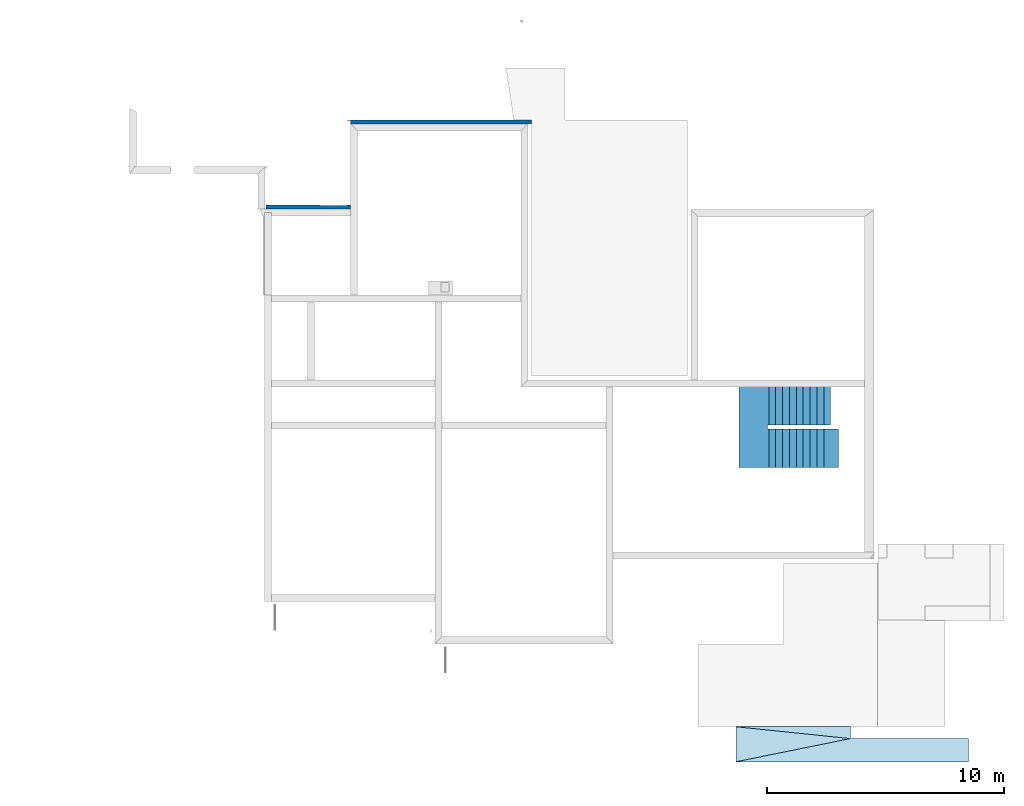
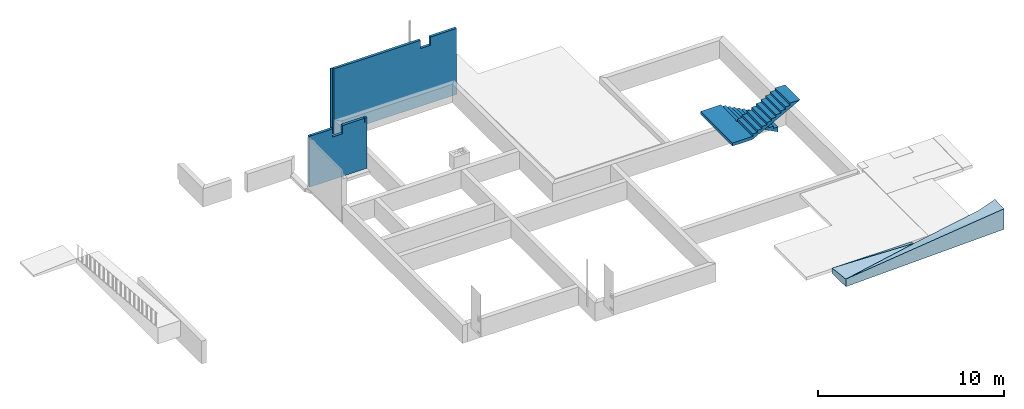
# One storey, part 5 of 5: 2 walls, 1 slab, 1 stair, 1 element without a shape of its own.
"""IFC2X3 building model written with IfcOpenShell, lengths in metres."""

from ifc_helpers import new_model, entity, si_unit, converted_unit, derived_unit, direction, frame, origin, place, context, subcontext, project, spatial, face_set, faceted_brep, surface_model, material, type_object, element, aggregate, save


model = new_model("IFC2X3")

# Units and contexts
model_context = context("Model", 3, precision=1e-05, world=origin(), true_north=direction((6.123031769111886e-17, 1.0)))
body_context = subcontext(model_context, "Body", "Model", "MODEL_VIEW")
ifc_project = project(units=[si_unit("LENGTHUNIT", "METRE"), si_unit("AREAUNIT", "SQUARE_METRE"), si_unit("VOLUMEUNIT", "CUBIC_METRE"), converted_unit("PLANEANGLEUNIT", "DEGREE", entity("IfcRatioMeasure", 0.017453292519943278), si_unit("PLANEANGLEUNIT", "RADIAN"), dimensions=[0, 0, 0, 0, 0, 0, 0]), si_unit("MASSUNIT", "GRAM", prefix="KILO"), derived_unit("MASSDENSITYUNIT", [(si_unit("MASSUNIT", "GRAM", prefix="KILO"), 1), (si_unit("LENGTHUNIT", "METRE"), -3)]), derived_unit("MOMENTOFINERTIAUNIT", [(si_unit("LENGTHUNIT", "METRE"), 4)]), si_unit("TIMEUNIT", "SECOND"), si_unit("FREQUENCYUNIT", "HERTZ"), si_unit("THERMODYNAMICTEMPERATUREUNIT", "DEGREE_CELSIUS"), derived_unit("THERMALTRANSMITTANCEUNIT", [(si_unit("MASSUNIT", "GRAM", prefix="KILO"), 1), (si_unit("THERMODYNAMICTEMPERATUREUNIT", "KELVIN"), -1), (si_unit("TIMEUNIT", "SECOND"), -3)]), derived_unit("THERMALCONDUCTANCEUNIT", [(si_unit("MASSUNIT", "GRAM", prefix="KILO"), 1), (si_unit("LENGTHUNIT", "METRE"), 1), (si_unit("THERMODYNAMICTEMPERATUREUNIT", "KELVIN"), -1), (si_unit("TIMEUNIT", "SECOND"), -3)]), derived_unit("VOLUMETRICFLOWRATEUNIT", [(si_unit("LENGTHUNIT", "METRE"), 3), (si_unit("TIMEUNIT", "SECOND"), -1)]), derived_unit("MASSFLOWRATEUNIT", [(si_unit("MASSUNIT", "GRAM", prefix="KILO"), 1), (si_unit("TIMEUNIT", "SECOND"), -1)]), derived_unit("ROTATIONALFREQUENCYUNIT", [(si_unit("TIMEUNIT", "SECOND"), -1)]), si_unit("ELECTRICCURRENTUNIT", "AMPERE"), si_unit("ELECTRICVOLTAGEUNIT", "VOLT"), si_unit("POWERUNIT", "WATT"), si_unit("FORCEUNIT", "NEWTON", prefix="KILO"), si_unit("ILLUMINANCEUNIT", "LUX"), si_unit("LUMINOUSFLUXUNIT", "LUMEN"), si_unit("LUMINOUSINTENSITYUNIT", "CANDELA"), derived_unit("USERDEFINED", [(si_unit("MASSUNIT", "GRAM", prefix="KILO"), -1), (si_unit("LENGTHUNIT", "METRE"), -2), (si_unit("TIMEUNIT", "SECOND"), 3), (si_unit("LUMINOUSFLUXUNIT", "LUMEN"), 1)]), derived_unit("USERDEFINED", [(si_unit("MASSUNIT", "GRAM", prefix="KILO"), 1), (si_unit("LENGTHUNIT", "METRE"), 3), (si_unit("TIMEUNIT", "SECOND"), -3), (si_unit("ELECTRICCURRENTUNIT", "AMPERE"), -2)]), derived_unit("USERDEFINED", [(si_unit("LENGTHUNIT", "METRE"), 2), (si_unit("TIMEUNIT", "SECOND"), -2)]), derived_unit("SOUNDPOWERUNIT", [(si_unit("MASSUNIT", "GRAM", prefix="KILO"), 1), (si_unit("LENGTHUNIT", "METRE"), 2), (si_unit("TIMEUNIT", "SECOND"), -3)]), derived_unit("SOUNDPRESSUREUNIT", [(si_unit("MASSUNIT", "GRAM", prefix="KILO"), 1), (si_unit("LENGTHUNIT", "METRE"), -1), (si_unit("TIMEUNIT", "SECOND"), -2)]), derived_unit("LINEARVELOCITYUNIT", [(si_unit("LENGTHUNIT", "METRE"), 1), (si_unit("TIMEUNIT", "SECOND"), -1)]), si_unit("PRESSUREUNIT", "PASCAL"), derived_unit("USERDEFINED", [(si_unit("LENGTHUNIT", "METRE"), -2), (si_unit("MASSUNIT", "GRAM", prefix="KILO"), 1), (si_unit("TIMEUNIT", "SECOND"), -2)]), derived_unit("LINEARFORCEUNIT", [(si_unit("MASSUNIT", "GRAM", prefix="KILO"), 1), (si_unit("LENGTHUNIT", "METRE"), 1), (si_unit("TIMEUNIT", "SECOND"), -2), (si_unit("LENGTHUNIT", "METRE"), -1)]), derived_unit("PLANARFORCEUNIT", [(si_unit("MASSUNIT", "GRAM", prefix="KILO"), 1), (si_unit("LENGTHUNIT", "METRE"), 1), (si_unit("TIMEUNIT", "SECOND"), -2), (si_unit("LENGTHUNIT", "METRE"), -2)]), derived_unit("SPECIFICHEATCAPACITYUNIT", [(si_unit("LENGTHUNIT", "METRE"), 2), (si_unit("TIMEUNIT", "SECOND"), -2), (si_unit("THERMODYNAMICTEMPERATUREUNIT", "KELVIN"), -1)]), derived_unit("VAPORPERMEABILITYUNIT", [(si_unit("TIMEUNIT", "SECOND"), 1), (si_unit("LENGTHUNIT", "METRE"), -1)]), derived_unit("DYNAMICVISCOSITYUNIT", [(si_unit("MASSUNIT", "GRAM", prefix="KILO"), 1), (si_unit("LENGTHUNIT", "METRE"), -1), (si_unit("TIMEUNIT", "SECOND"), -1)]), derived_unit("THERMALEXPANSIONCOEFFICIENTUNIT", [(si_unit("THERMODYNAMICTEMPERATUREUNIT", "KELVIN"), -1)])], contexts=[model_context])

# Site, building, storey
site_placement = place(None, origin())
site = spatial("IfcSite", under=ifc_project, at=site_placement, Name="Default", CompositionType="ELEMENT")
building_placement = place(site_placement, origin())
building = spatial("IfcBuilding", under=site, at=building_placement, CompositionType="ELEMENT")
storey_placement = place(building_placement, frame((0.0, 0.0, -1.0)))
storey = spatial("IfcBuildingStorey", under=building, at=storey_placement, Name="VS", CompositionType="ELEMENT", Elevation=-0.9999999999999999)

# Slab
ifc_material_1 = material(Name="Env. - Herbe brune")
slab_type = type_object("IfcSlabType", Name="Toit-03", PredefinedType="ROOF", material=ifc_material_1)
slab_placement = place(storey_placement, frame((122.570746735, -0.8127904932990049, 0.6656590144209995)))
element("IfcSlab", 1, at=slab_placement, inside=storey, type_object=slab_type, Name="Toit-03 40209:Toit-03 40209", ObjectType="Toit-03 40209:Toit-03 40209", PredefinedType="ROOF", context=body_context, shape_type="Brep", body=[
    faceted_brep([(0.0, 1.4800000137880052, 0.33410294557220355), (0.0, 0.0, 0.5034864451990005), (4.830005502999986, 0.9800000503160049, 0.5843409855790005), (0.0, 0.0, 0.0), (0.0, 1.4800000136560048, 0.0), (9.830005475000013, 1.2639007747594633e-08, 1.6839416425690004), (4.830005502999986, 1.4800000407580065, 0.3343409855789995), (9.830005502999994, 0.0, 0.3343409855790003), (4.830005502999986, 0.9800000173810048, 0.5796006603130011), (8.820005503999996, 0.9800000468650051, 1.334340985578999), (9.830005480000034, 0.980000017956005, 1.7135383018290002), (4.8300055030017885, 0.9800013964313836, 0.5796006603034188), (4.8300055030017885, 0.9800014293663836, 0.5843409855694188), (8.820005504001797, 0.9800014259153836, 1.3343409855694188), (9.83000548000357, 0.9800027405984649, 1.713538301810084), (9.830005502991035, 0.9799931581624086, 0.3343409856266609), (9.830005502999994, 0.9800000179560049, 0.3343409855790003)], [[[0, 1, 2]], [[3, 1, 0, 4]], [[2, 1, 5]], [[6, 0, 2]], [[1, 3, 7]], [[4, 0, 6]], [[3, 4, 8]], [[5, 1, 7]], [[2, 5, 9]], [[2, 8, 6]], [[7, 3, 8]], [[4, 6, 8]], [[10, 5, 7]], [[5, 10, 9]], [[11, 12, 13, 14, 15]], [[16, 7, 8]], [[7, 16, 10]]]),
])

# Walls
wall_type_1 = type_object("IfcWallType", Name="MurExt-008", PredefinedType="NOTDEFINED")
wall_1_placement = place(storey_placement, frame((106.14075228, 26.117209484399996, 0.0)))
element("IfcWall", 2, at=wall_1_placement, inside=storey, type_object=wall_type_1, Name="MurExt-008:MurExt-008", ObjectType="MurExt-008:MurExt-008", context=body_context, shape_type="Brep", body=[
    faceted_brep([(0.019999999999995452, 0.1600000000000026, 4.34), (0.019999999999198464, 0.14000000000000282, 4.34), (5.549999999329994, 0.14000000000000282, 4.34), (5.549999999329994, 0.1600000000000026, 4.34), (7.809999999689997, 0.1600000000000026, 0.0), (7.809999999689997, 0.14000000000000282, 0.0), (0.019999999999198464, 0.14000000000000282, 0.0), (0.019999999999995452, 0.1600000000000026, 0.0), (7.809999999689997, 0.14000000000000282, 4.34), (6.16999999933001, 0.14000000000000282, 4.34), (6.16999999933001, 0.14000000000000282, 3.8000000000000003), (5.549999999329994, 0.14000000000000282, 3.8000000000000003), (7.809999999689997, 0.1600000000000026, 4.34), (5.549999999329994, 0.1600000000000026, 3.8000000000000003), (6.16999999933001, 0.1600000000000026, 3.8000000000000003), (6.16999999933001, 0.1600000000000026, 4.34)], [[[0, 1, 2, 3]], [[4, 5, 6, 7]], [[5, 8, 9, 10, 11, 2, 1, 6]], [[12, 8, 5, 4]], [[12, 4, 7, 0, 3, 13, 14, 15]], [[1, 0, 7, 6]], [[11, 13, 3, 2]], [[14, 10, 9, 15]], [[13, 11, 10, 14]], [[8, 12, 15, 9]]]),
    faceted_brep([(0.1599999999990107, 0.14000000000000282, 4.34), (0.15999999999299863, 0.0, 4.34), (5.549999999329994, 0.0, 4.34), (5.549999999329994, 0.14000000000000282, 4.34), (7.809999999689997, 0.14000000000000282, 0.0), (7.809999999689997, 0.0, 0.0), (0.15999999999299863, 0.0, 0.0), (0.15999999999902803, 0.14000000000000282, 0.0), (7.809999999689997, 0.0, 0.8000000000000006), (7.789999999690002, 0.0, 0.8000000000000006), (7.789999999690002, 0.0, 4.34), (6.16999999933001, 0.0, 4.34), (6.16999999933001, 0.0, 3.8000000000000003), (5.549999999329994, 0.0, 3.8000000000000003), (7.809999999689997, 0.14000000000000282, 0.8000000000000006), (5.549999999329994, 0.14000000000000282, 3.8000000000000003), (6.16999999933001, 0.14000000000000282, 3.8000000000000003), (6.16999999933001, 0.14000000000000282, 4.34), (7.789999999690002, 0.14000000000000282, 4.34), (7.789999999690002, 0.14000000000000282, 0.8000000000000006)], [[[0, 1, 2, 3]], [[4, 5, 6, 7]], [[6, 5, 8, 9, 10, 11, 12, 13, 2, 1]], [[5, 4, 14, 8]], [[4, 7, 0, 3, 15, 16, 17, 18, 19, 14]], [[1, 0, 7, 6]], [[13, 15, 3, 2]], [[16, 12, 11, 17]], [[15, 13, 12, 16]], [[19, 9, 8, 14]], [[9, 19, 18, 10]], [[17, 11, 10, 18]]]),
])
wall_type_2 = type_object("IfcWallType", Name="MurExt-006", PredefinedType="NOTDEFINED")
wall_2_placement = place(storey_placement, frame((102.72475227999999, 22.527209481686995, 0.0)))
element("IfcWall", 3, at=wall_2_placement, inside=storey, type_object=wall_type_2, Name="MurExt-006:MurExt-006", ObjectType="MurExt-006:MurExt-006", context=body_context, shape_type="Brep", body=[
    faceted_brep([(0.0, 0.16000000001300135, 3.34), (0.0, 0.14000000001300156, 3.34), (1.4359999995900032, 0.14000000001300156, 3.34), (1.4359999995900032, 0.16000000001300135, 3.34), (3.575555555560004, 0.16000000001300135, 0.0), (3.575555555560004, 0.14000000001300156, 0.0), (3.4160000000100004, 0.14000000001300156, 0.0), (3.4160000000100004, 0.16000000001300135, 0.0), (3.575555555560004, 0.14000000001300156, 3.34), (2.055999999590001, 0.14000000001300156, 3.34), (2.055999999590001, 0.14000000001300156, 2.8), (1.4359999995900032, 0.14000000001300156, 2.8), (0.0, 0.14000000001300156, 0.0), (2.2860000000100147, 0.14000000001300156, 0.0), (2.2860000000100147, 0.14000000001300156, 2.0749999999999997), (3.4160000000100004, 0.14000000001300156, 2.0749999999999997), (3.575555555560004, 0.16000000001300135, 3.34), (3.4160000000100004, 0.16000000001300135, 2.0749999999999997), (2.2860000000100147, 0.16000000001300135, 2.075), (2.2860000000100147, 0.16000000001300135, 0.0), (0.0, 0.16000000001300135, 0.0), (1.4359999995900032, 0.16000000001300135, 2.9899999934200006), (1.4359999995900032, 0.16000000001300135, 2.8), (2.055999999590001, 0.16000000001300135, 2.8), (2.055999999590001, 0.16000000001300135, 2.9899999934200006), (2.055999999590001, 0.16000000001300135, 3.34)], [[[0, 1, 2, 3]], [[4, 5, 6, 7]], [[5, 8, 9, 10, 11, 2, 1, 12, 13, 14, 15, 6]], [[16, 8, 5, 4]], [[16, 4, 7, 17, 18, 19, 20, 0, 3, 21, 22, 23, 24, 25]], [[1, 0, 20, 12]], [[11, 22, 21, 3, 2]], [[23, 10, 9, 25, 24]], [[22, 11, 10, 23]], [[18, 14, 13, 19]], [[15, 17, 7, 6]], [[14, 18, 17, 15]], [[12, 20, 19, 13]], [[8, 16, 25, 9]]]),
    faceted_brep([(0.0, 0.14000000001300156, 3.34), (0.0, 0.0, 3.34), (0.10599999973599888, 0.0, 3.34), (0.10599999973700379, 0.14000000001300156, 3.34), (3.575555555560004, 0.0, 0.0), (0.0, 0.0, 0.0), (0.0, 0.14000000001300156, 0.0), (3.575555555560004, 0.14000000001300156, 0.0), (3.575555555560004, 0.0, 3.34), (3.4359999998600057, 0.0, 3.34), (3.4359999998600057, 0.0, 3.06), (3.41599999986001, 0.0, 3.06), (3.41599999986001, 0.0, 3.34), (2.055999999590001, 0.0, 3.34), (2.055999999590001, 0.0, 2.8), (1.4359999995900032, 0.0, 2.8), (1.4359999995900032, 0.0, 3.34), (0.12599999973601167, 0.0, 3.34), (0.12599999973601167, 0.0, 3.06), (0.10599999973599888, 0.0, 3.06), (3.575555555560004, 0.14000000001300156, 3.34), (0.10599999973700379, 0.14000000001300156, 3.06), (0.12599999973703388, 0.14000000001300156, 3.06), (0.12599999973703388, 0.14000000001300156, 3.34), (1.4359999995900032, 0.14000000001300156, 3.34), (1.4359999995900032, 0.14000000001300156, 2.8), (2.055999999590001, 0.14000000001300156, 2.8), (2.055999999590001, 0.14000000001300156, 3.34), (3.41599999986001, 0.14000000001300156, 3.34), (3.41599999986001, 0.14000000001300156, 3.06), (3.4359999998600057, 0.14000000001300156, 3.06), (3.4359999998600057, 0.14000000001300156, 3.34)], [[[0, 1, 2, 3]], [[4, 5, 6, 7]], [[5, 4, 8, 9, 10, 11, 12, 13, 14, 15, 16, 17, 18, 19, 2, 1]], [[20, 8, 4, 7]], [[7, 6, 0, 3, 21, 22, 23, 24, 25, 26, 27, 28, 29, 30, 31, 20]], [[1, 0, 6, 5]], [[19, 21, 3, 2]], [[22, 18, 17, 23]], [[21, 19, 18, 22]], [[15, 25, 24, 16]], [[26, 14, 13, 27]], [[25, 15, 14, 26]], [[11, 29, 28, 12]], [[30, 10, 9, 31]], [[29, 11, 10, 30]], [[23, 17, 16, 24]], [[27, 13, 12, 28]], [[8, 20, 31, 9]]]),
])

# Stairs
stair_1_placement = place(storey_placement, frame((122.70075228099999, 11.607208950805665, 0.8190999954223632)))
stair_1 = element("IfcStair", 4, at=stair_1_placement, inside=storey, Name="Esc-001:Esc-001", ObjectType="Esc-001:Esc-001", ShapeType="NOTDEFINED")
ifc_material_2 = material(Name="Béton - Lissé")
stair_2_placement = place(stair_1_placement, origin())
stair_2 = element("IfcStair", 5, at=stair_2_placement, material=ifc_material_2, Name="Esc-001:Esc-001", ObjectType="Esc-001:Esc-001", ShapeType="NOTDEFINED", context=body_context, shape_type="SurfaceModel", body=[
    surface_model("IfcFaceBasedSurfaceModel", [(1.2100006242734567, 1.640001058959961, 1.5109000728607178), (1.2100006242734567, 0.0, 1.5109000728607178), (1.2100006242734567, 0.0, 1.5578999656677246), (1.2100006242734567, 1.640001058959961, 1.5578999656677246), (1.2238044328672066, 0.0, 1.5109000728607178), (1.2238044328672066, 0.0, 1.7109000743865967), (1.2100006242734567, 0.0, 1.7109000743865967), (1.2100006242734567, 1.640001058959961, 1.7109000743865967), (1.2238044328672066, 1.640001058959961, 1.5109000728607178), (1.2238044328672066, 1.640001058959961, 1.7109000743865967), (1.259997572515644, 0.0, 1.53000006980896), (1.259997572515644, 0.0, 1.7109000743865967), (1.259997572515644, 1.640001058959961, 1.7109000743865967), (1.259997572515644, 1.640001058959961, 1.53000006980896), (1.5499984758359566, 0.0, 1.6830000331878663), (1.5499984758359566, 0.0, 1.863900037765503), (1.259997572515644, 0.0, 1.863900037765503), (1.259997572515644, 1.640001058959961, 1.863900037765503), (1.5499984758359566, 1.640001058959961, 1.6830000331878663), (1.5499984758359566, 1.640001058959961, 1.863900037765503), (1.8399993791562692, 0.0, 1.8359999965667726), (1.8399993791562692, 0.0, 2.016900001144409), (1.5499984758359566, 0.0, 2.016900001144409), (1.8399993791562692, 1.640001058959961, 1.8359999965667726), (1.5499984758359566, 1.640001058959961, 2.016900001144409), (1.8399993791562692, 1.640001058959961, 2.016900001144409), (2.1300002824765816, 0.0, 1.988999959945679), (2.1300002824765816, 0.0, 2.1698999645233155), (1.8399993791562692, 0.0, 2.1698999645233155), (2.1300002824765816, 1.640001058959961, 1.988999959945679), (1.8399993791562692, 1.640001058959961, 2.1698999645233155), (2.1300002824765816, 1.640001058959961, 2.1698999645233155), (2.4200011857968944, 0.0, 2.142000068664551), (2.4200011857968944, 0.0, 2.3229000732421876), (2.1300002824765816, 0.0, 2.3229000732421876), (2.4200011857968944, 1.640001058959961, 2.142000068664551), (2.1300002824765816, 1.640001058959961, 2.3229000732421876), (2.4200011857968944, 1.640001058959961, 2.3229000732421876), (2.7100020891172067, 0.0, 2.295000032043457), (2.7100020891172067, 0.0, 2.475900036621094), (2.4200011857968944, 0.0, 2.475900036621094), (2.7100020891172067, 1.640001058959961, 2.295000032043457), (2.4200011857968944, 1.640001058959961, 2.475900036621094), (2.7100020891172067, 1.640001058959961, 2.475900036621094), (3.000002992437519, 0.0, 2.4479999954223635), (3.000002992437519, 0.0, 2.6289000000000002), (2.7100020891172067, 0.0, 2.6289000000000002), (3.000002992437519, 1.640001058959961, 2.4479999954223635), (2.7100020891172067, 1.640001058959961, 2.6289000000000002), (3.000002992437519, 1.640001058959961, 2.6289000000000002), (3.290003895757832, 0.0, 2.6009999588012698), (3.290003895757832, 0.0, 2.7818999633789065), (3.000002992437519, 0.0, 2.7818999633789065), (3.290003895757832, 1.640001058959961, 2.6009999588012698), (3.000002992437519, 1.640001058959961, 2.7818999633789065), (3.290003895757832, 1.640001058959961, 2.7818999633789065), (3.579995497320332, 0.0, 2.753999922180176), (3.579995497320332, 0.0, 2.934899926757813), (3.290003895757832, 0.0, 2.934899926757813), (3.579995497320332, 1.640001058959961, 2.753999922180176), (3.290003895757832, 1.640001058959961, 2.934899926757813), (3.579995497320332, 1.640001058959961, 2.934899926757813), (3.869996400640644, 0.0, 2.9069998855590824), (3.869996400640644, 0.0, 3.0878998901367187), (3.579995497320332, 0.0, 3.0878998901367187), (3.869996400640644, 1.640001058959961, 2.9069998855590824), (3.579995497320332, 1.640001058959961, 3.0878998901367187), (3.869996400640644, 1.640001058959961, 3.0878998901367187), (4.199622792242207, 0.0, 3.080900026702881), (3.869996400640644, 0.0, 3.080900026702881), (3.869996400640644, 1.640001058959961, 3.080900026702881), (4.199622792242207, 1.640001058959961, 3.080900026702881), (3.869996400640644, 1.8000005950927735, 0.0), (3.869996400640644, 3.440000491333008, 0.0), (3.869996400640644, 3.440000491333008, 0.18090000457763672), (3.869996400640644, 1.8000005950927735, 0.18090000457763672), (3.579995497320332, 3.440000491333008, 0.15300000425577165), (3.579995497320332, 3.440000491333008, 0.33390000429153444), (3.869996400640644, 3.440000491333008, 0.33390000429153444), (3.869996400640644, 1.8000005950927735, 0.33390000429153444), (3.579995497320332, 1.8000005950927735, 0.15300000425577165), (3.579995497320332, 1.8000005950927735, 0.33390000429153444), (3.290003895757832, 3.440000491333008, 0.3060000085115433), (3.290003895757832, 3.440000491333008, 0.48690000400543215), (3.579995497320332, 3.440000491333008, 0.48690000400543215), (3.290003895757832, 1.8000005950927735, 0.3060000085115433), (3.579995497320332, 1.8000005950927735, 0.48690000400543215), (3.290003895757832, 1.8000005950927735, 0.48690000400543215), (3.000002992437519, 3.440000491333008, 0.45899999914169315), (3.000002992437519, 3.440000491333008, 0.6399000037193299), (3.290003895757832, 3.440000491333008, 0.6399000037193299), (3.000002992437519, 1.8000005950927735, 0.45899999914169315), (3.290003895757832, 1.8000005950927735, 0.6399000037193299), (3.000002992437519, 1.8000005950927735, 0.6399000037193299), (2.7100020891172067, 3.440000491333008, 0.6119999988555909), (2.7100020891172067, 3.440000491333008, 0.7929000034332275), (3.000002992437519, 3.440000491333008, 0.7929000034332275), (2.7100020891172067, 1.8000005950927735, 0.6119999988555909), (3.000002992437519, 1.8000005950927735, 0.7929000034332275), (2.7100020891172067, 1.8000005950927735, 0.7929000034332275), (2.4200011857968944, 3.440000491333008, 0.7649999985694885), (2.4200011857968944, 3.440000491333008, 0.9459000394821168), (2.7100020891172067, 3.440000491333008, 0.9459000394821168), (2.4200011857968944, 1.8000005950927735, 0.7649999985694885), (2.7100020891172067, 1.8000005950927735, 0.9459000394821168), (2.4200011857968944, 1.8000005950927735, 0.9459000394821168), (2.1300002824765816, 3.440000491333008, 0.9179999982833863), (2.1300002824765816, 3.440000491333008, 1.098900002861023), (2.4200011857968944, 3.440000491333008, 1.098900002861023), (2.1300002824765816, 1.8000005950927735, 0.9179999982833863), (2.4200011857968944, 1.8000005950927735, 1.098900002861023), (2.1300002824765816, 1.8000005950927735, 1.098900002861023), (1.8399993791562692, 3.440000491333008, 1.0710000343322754), (1.8399993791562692, 3.440000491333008, 1.2519000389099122), (2.1300002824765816, 3.440000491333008, 1.2519000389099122), (1.8399993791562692, 1.8000005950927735, 1.0710000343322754), (2.1300002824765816, 1.8000005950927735, 1.2519000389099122), (1.8399993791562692, 1.8000005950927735, 1.2519000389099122), (1.5499984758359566, 3.440000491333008, 1.2239999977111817), (1.5499984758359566, 3.440000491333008, 1.4049000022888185), (1.8399993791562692, 3.440000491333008, 1.4049000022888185), (1.5499984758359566, 1.8000005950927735, 1.2239999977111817), (1.8399993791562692, 1.8000005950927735, 1.4049000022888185), (1.5499984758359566, 1.8000005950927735, 1.4049000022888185), (1.259997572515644, 3.440000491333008, 1.377000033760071), (1.259997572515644, 3.440000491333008, 1.5578999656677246), (1.5499984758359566, 3.440000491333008, 1.5578999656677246), (1.259997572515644, 1.8000005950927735, 1.377000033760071), (1.5499984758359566, 1.8000005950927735, 1.5578999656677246), (1.259997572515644, 1.8000005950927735, 1.5578999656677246), (1.0061991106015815, 3.440000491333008, 1.5109000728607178), (1.259997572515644, 3.440000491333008, 1.5109000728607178), (1.259997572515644, 1.8000005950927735, 1.5109000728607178), (1.0061991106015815, 1.8000005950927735, 1.5109000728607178), (1.260000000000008, 1.8000005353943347, 1.7109000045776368), (1.2100000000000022, 1.8000005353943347, 1.7109000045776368), (1.2100000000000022, 1.8000005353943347, 1.5109000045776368), (1.260000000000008, 3.4400005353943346, 1.7109000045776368), (0.0, 3.4400005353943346, 1.7109000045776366), (0.0, 5.353943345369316e-07, 1.7109000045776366), (0.0, 3.4400005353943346, 1.5109000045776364), (0.0, 5.353943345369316e-07, 1.5109000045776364)], [face_set([[[0, 1, 2]], [[2, 3, 0]], [[2, 4, 5]], [[4, 2, 1]], [[2, 5, 6]], [[3, 2, 6]], [[6, 7, 3]], [[8, 0, 3]], [[3, 7, 9]], [[3, 9, 8]], [[0, 8, 1]], [[8, 4, 1]], [[4, 10, 5]], [[11, 5, 10]], [[9, 7, 5]], [[5, 7, 6]], [[5, 11, 12]], [[5, 12, 9]], [[13, 8, 9]], [[9, 12, 13]], [[8, 13, 4]], [[13, 10, 4]], [[11, 10, 14]], [[11, 15, 16]], [[15, 11, 14]], [[12, 11, 16]], [[16, 17, 12]], [[18, 13, 12]], [[12, 17, 19]], [[12, 19, 18]], [[13, 18, 10]], [[18, 14, 10]], [[15, 14, 20]], [[15, 21, 22]], [[21, 15, 20]], [[17, 16, 15]], [[15, 19, 17]], [[23, 18, 19]], [[19, 24, 25]], [[19, 25, 23]], [[18, 23, 14]], [[23, 20, 14]], [[21, 20, 26]], [[21, 27, 28]], [[27, 21, 26]], [[24, 22, 21]], [[21, 25, 24]], [[19, 15, 22]], [[22, 24, 19]], [[29, 23, 25]], [[25, 30, 31]], [[25, 31, 29]], [[23, 29, 20]], [[29, 26, 20]], [[27, 26, 32]], [[27, 33, 34]], [[33, 27, 32]], [[30, 28, 27]], [[27, 31, 30]], [[25, 21, 28]], [[28, 30, 25]], [[35, 29, 31]], [[31, 36, 37]], [[31, 37, 35]], [[29, 35, 26]], [[35, 32, 26]], [[33, 32, 38]], [[33, 39, 40]], [[39, 33, 38]], [[36, 34, 33]], [[33, 37, 36]], [[31, 27, 34]], [[34, 36, 31]], [[41, 35, 37]], [[37, 42, 43]], [[37, 43, 41]], [[35, 41, 32]], [[41, 38, 32]], [[39, 38, 44]], [[39, 45, 46]], [[45, 39, 44]], [[42, 40, 39]], [[39, 43, 42]], [[37, 33, 40]], [[40, 42, 37]], [[47, 41, 43]], [[43, 48, 49]], [[43, 49, 47]], [[41, 47, 38]], [[47, 44, 38]], [[45, 44, 50]], [[45, 51, 52]], [[51, 45, 50]], [[48, 46, 45]], [[45, 49, 48]], [[43, 39, 46]], [[46, 48, 43]], [[53, 47, 49]], [[49, 54, 55]], [[49, 55, 53]], [[47, 53, 44]], [[53, 50, 44]], [[51, 50, 56]], [[51, 57, 58]], [[57, 51, 56]], [[54, 52, 51]], [[51, 55, 54]], [[49, 45, 52]], [[52, 54, 49]], [[59, 53, 55]], [[55, 60, 61]], [[55, 61, 59]], [[53, 59, 50]], [[59, 56, 50]], [[57, 56, 62]], [[57, 63, 64]], [[63, 57, 62]], [[60, 58, 57]], [[57, 61, 60]], [[55, 51, 58]], [[58, 60, 55]], [[65, 59, 61]], [[61, 66, 67]], [[61, 67, 65]], [[59, 65, 56]], [[65, 62, 56]], [[62, 68, 69]], [[66, 64, 63]], [[63, 67, 66]], [[61, 57, 64]], [[64, 66, 61]], [[65, 70, 71]], [[65, 71, 62]], [[71, 68, 62]], [[71, 70, 69]], [[69, 68, 71]], [[63, 69, 67]], [[70, 67, 69]]]), face_set([[[72, 73, 74]], [[74, 75, 72]], [[74, 73, 76]], [[74, 77, 78]], [[77, 74, 76]], [[75, 74, 79]], [[78, 79, 74]], [[80, 72, 75]], [[75, 79, 81]], [[75, 81, 80]], [[72, 80, 73]], [[80, 76, 73]], [[77, 76, 82]], [[77, 83, 84]], [[83, 77, 82]], [[79, 78, 77]], [[77, 81, 79]], [[85, 80, 81]], [[81, 86, 87]], [[81, 87, 85]], [[76, 80, 85]], [[85, 82, 76]], [[83, 82, 88]], [[83, 89, 90]], [[89, 83, 88]], [[86, 84, 83]], [[83, 87, 86]], [[81, 77, 86]], [[84, 86, 77]], [[91, 85, 87]], [[87, 92, 93]], [[87, 93, 91]], [[85, 91, 82]], [[91, 88, 82]], [[89, 88, 94]], [[89, 95, 96]], [[95, 89, 94]], [[92, 90, 89]], [[89, 93, 92]], [[87, 83, 90]], [[90, 92, 87]], [[97, 91, 93]], [[93, 98, 99]], [[93, 99, 97]], [[88, 91, 97]], [[97, 94, 88]], [[95, 94, 100]], [[95, 101, 102]], [[101, 95, 100]], [[98, 96, 95]], [[95, 99, 98]], [[93, 89, 96]], [[96, 98, 93]], [[103, 97, 99]], [[99, 104, 105]], [[99, 105, 103]], [[97, 103, 94]], [[103, 100, 94]], [[101, 100, 106]], [[101, 107, 108]], [[107, 101, 106]], [[104, 102, 101]], [[101, 105, 104]], [[99, 95, 102]], [[102, 104, 99]], [[109, 103, 105]], [[105, 110, 111]], [[105, 111, 109]], [[103, 109, 100]], [[109, 106, 100]], [[107, 106, 112]], [[107, 113, 114]], [[113, 107, 112]], [[110, 108, 107]], [[107, 111, 110]], [[105, 101, 110]], [[108, 110, 101]], [[115, 109, 111]], [[111, 116, 117]], [[111, 117, 115]], [[109, 115, 106]], [[115, 112, 106]], [[113, 112, 118]], [[113, 119, 120]], [[119, 113, 118]], [[116, 114, 113]], [[113, 117, 116]], [[111, 107, 114]], [[114, 116, 111]], [[121, 115, 117]], [[117, 122, 123]], [[117, 123, 121]], [[115, 121, 112]], [[121, 118, 112]], [[119, 118, 124]], [[119, 125, 126]], [[125, 119, 124]], [[122, 120, 119]], [[119, 123, 122]], [[117, 113, 120]], [[120, 122, 117]], [[127, 121, 123]], [[123, 128, 129]], [[123, 129, 127]], [[121, 127, 118]], [[127, 124, 118]], [[124, 130, 131]], [[128, 126, 125]], [[125, 129, 128]], [[123, 119, 126]], [[126, 128, 123]], [[127, 132, 133]], [[127, 133, 124]], [[133, 130, 124]], [[133, 132, 131]], [[131, 130, 133]], [[125, 131, 129]], [[132, 129, 131]]]), face_set([[[132, 134, 135, 136]], [[131, 137, 134, 132]], [[134, 137, 138, 139, 6, 7, 135]], [[136, 135, 7, 0]], [[132, 131, 140, 141, 1, 0, 136]], [[140, 138, 137, 131]], [[141, 139, 138, 140]], [[1, 6, 139, 141]], [[0, 7, 6, 1]]])]),
])
aggregate(stair_1, [stair_2])

save(model, "model.ifc")
